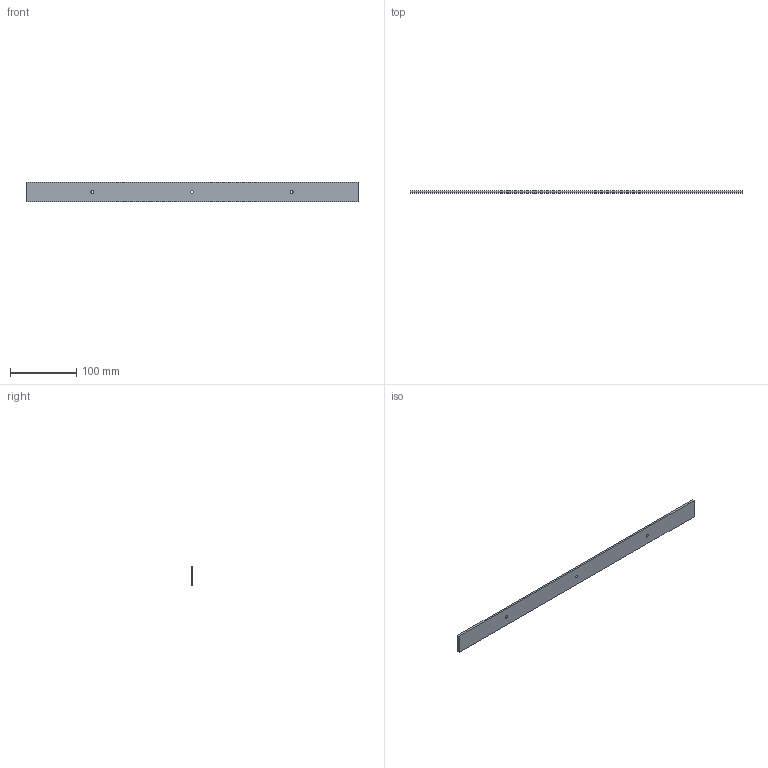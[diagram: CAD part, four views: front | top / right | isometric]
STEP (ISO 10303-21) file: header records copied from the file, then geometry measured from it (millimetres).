
FILE_DESCRIPTION(('Open CASCADE Model'),'2;1');
FILE_NAME('Open CASCADE Shape Model','2026-10-28T04:26:17',('Author'),( 'Open CASCADE'),'Open CASCADE STEP processor 7.8','Open CASCADE 7.8' ,'Unknown');
FILE_SCHEMA(('AUTOMOTIVE_DESIGN { 1 0 10303 214 1 1 1 1 }'));
Length unit declared in the file: millimetre
Products named in the file (1): Open CASCADE STEP translator 7.8 7
Bounding box: 500 x 3 x 30 mm (x, y, z)
Volume: 44856.9 mm3; surface area: 33211.8 mm2
Topology: 1 solids, 1 shells, 9 faces, 21 edges, 14 vertices
Faces by surface type: plane 6, cylinder 3
Full cylindrical faces by diameter (mm): 4.5 x3
Entity records: 565 total; most frequent: CARTESIAN_POINT 105, DIRECTION 86, LINE 51, VECTOR 51, ORIENTED_EDGE 42, PCURVE 42, DEFINITIONAL_REPRESENTATION 42, EDGE_CURVE 21
